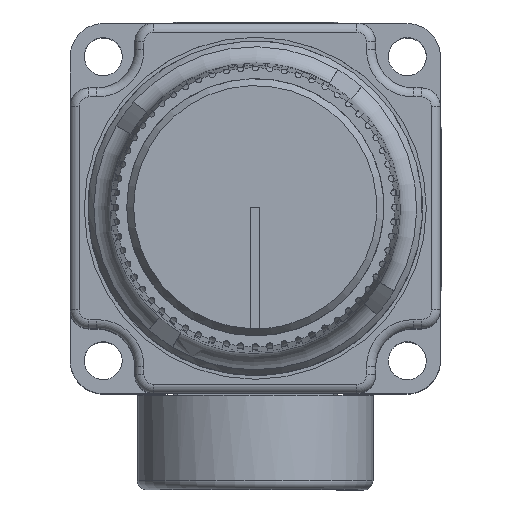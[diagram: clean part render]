
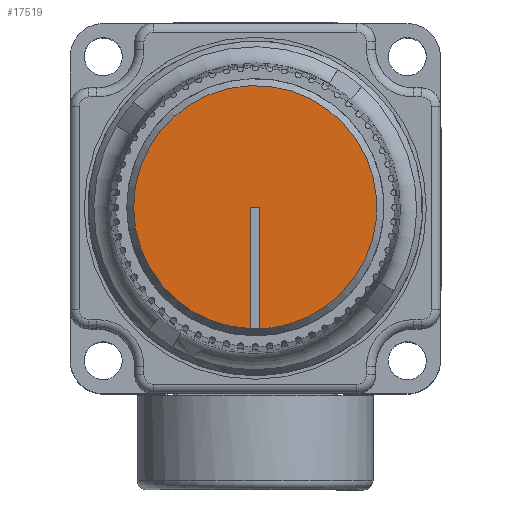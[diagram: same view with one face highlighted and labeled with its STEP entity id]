
A CAD part, top view. The second image highlights one B-rep face of the part: STEP entity #17519.
In plain terms, the highlighted planar face has unit normal (0, 0, 1).
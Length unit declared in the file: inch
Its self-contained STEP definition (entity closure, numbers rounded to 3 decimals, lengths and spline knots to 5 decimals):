
#591=PLANE('',#19116);
#1607=FACE_OUTER_BOUND('',#2629,.T.);
#2629=EDGE_LOOP('',(#13629,#13630,#13631,#13632,#13633));
#3494=CIRCLE('',#19117,0.4);
#3495=CIRCLE('',#19118,0.4);
#4839=LINE('',#32475,#6060);
#4840=LINE('',#32481,#6061);
#4841=LINE('',#32482,#6062);
#6060=VECTOR('',#23089,0.3937);
#6061=VECTOR('',#23094,0.3937);
#6062=VECTOR('',#23095,0.3937);
#7486=VERTEX_POINT('',#32473);
#7487=VERTEX_POINT('',#32474);
#7488=VERTEX_POINT('',#32476);
#7489=VERTEX_POINT('',#32478);
#7490=VERTEX_POINT('',#32480);
#9643=EDGE_CURVE('',#7486,#7487,#4839,.T.);
#9644=EDGE_CURVE('',#7487,#7488,#3494,.T.);
#9645=EDGE_CURVE('',#7488,#7489,#3495,.T.);
#9646=EDGE_CURVE('',#7489,#7490,#4840,.T.);
#9647=EDGE_CURVE('',#7490,#7486,#4841,.T.);
#13629=ORIENTED_EDGE('',*,*,#9643,.T.);
#13630=ORIENTED_EDGE('',*,*,#9644,.T.);
#13631=ORIENTED_EDGE('',*,*,#9645,.T.);
#13632=ORIENTED_EDGE('',*,*,#9646,.T.);
#13633=ORIENTED_EDGE('',*,*,#9647,.T.);
#17519=ADVANCED_FACE('',(#1607),#591,.T.);
#19116=AXIS2_PLACEMENT_3D('',#32472,#23087,#23088);
#19117=AXIS2_PLACEMENT_3D('',#32477,#23090,#23091);
#19118=AXIS2_PLACEMENT_3D('',#32479,#23092,#23093);
#23087=DIRECTION('center_axis',(0.,0.,1.));
#23088=DIRECTION('ref_axis',(1.,0.,0.));
#23089=DIRECTION('',(0.,-1.,0.));
#23090=DIRECTION('center_axis',(0.,0.,
1.));
#23091=DIRECTION('ref_axis',(0.325,0.946,0.));
#23092=DIRECTION('center_axis',(0.,0.,
1.));
#23093=DIRECTION('ref_axis',(0.325,0.946,0.));
#23094=DIRECTION('',(0.,1.,0.));
#23095=DIRECTION('',(1.,0.,0.));
#32472=CARTESIAN_POINT('Origin',(-0.64588,-0.3643,
1.82375));
#32473=CARTESIAN_POINT('',(-0.63088,0.03581,1.82375));
#32474=CARTESIAN_POINT('',(-0.63088,-0.3639,1.82375));
#32475=CARTESIAN_POINT('',(-0.63088,0.03581,1.82375));
#32476=CARTESIAN_POINT('',(-0.5317,-0.34754,1.82375));
#32477=CARTESIAN_POINT('Origin',(-0.64588,0.03581,
1.82375));
#32478=CARTESIAN_POINT('',(-0.66088,-0.3639,1.82375));
#32479=CARTESIAN_POINT('Origin',(-0.64588,0.03581,
1.82375));
#32480=CARTESIAN_POINT('',(-0.66088,0.03581,1.82375));
#32481=CARTESIAN_POINT('',(-0.66088,-0.3639,1.82375));
#32482=CARTESIAN_POINT('',(-0.66088,0.03581,1.82375));
